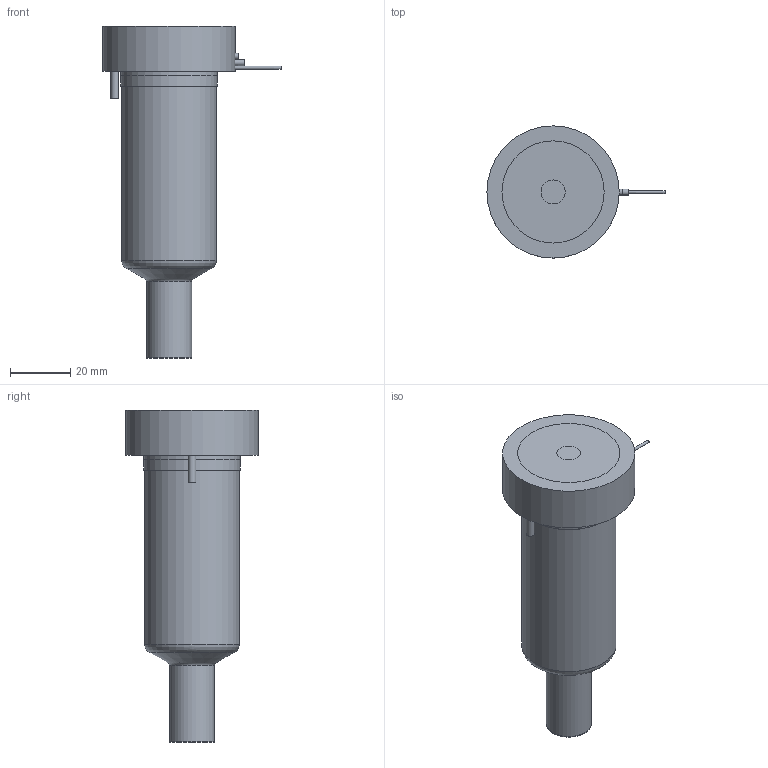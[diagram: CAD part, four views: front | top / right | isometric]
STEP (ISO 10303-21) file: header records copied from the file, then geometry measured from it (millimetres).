
FILE_DESCRIPTION(/* description */ (''),/* implementation_level */ '2;1');
FILE_NAME(/* name */ 'MXYCN19075P7U_200C_a',/* time_stamp */ '2016-02-29T16:08:37+13:00',/* author */ (''),/* organization */ (''),/* preprocessor_version */ 'ST-DEVELOPER v9',/* originating_system */ 'UGS - NX 4.0',/* authorisation */ '');
FILE_SCHEMA (('CONFIG_CONTROL_DESIGN'));
Length unit declared in the file: millimetre
Products named in the file (1): mattB1369ytw
Bounding box: 59.25 x 44 x 110.47 mm (x, y, z)
Volume: 133964.4 mm3; surface area: 24840.5 mm2
Topology: 2 solids, 2 shells, 68 faces, 144 edges, 94 vertices
Faces by surface type: plane 29, cylinder 25, torus 7, cone 5, bspline 1, sphere 1
Full cylindrical faces by diameter (mm): 1 x2, 1.8 x1, 2 x2, 2.5 x1, 7 x1, 8 x1, 14.61 x1, 14.995 x2, 18.3 x1, 25.4 x1, 31.5 x1, 32 x2, 44 x1
Entity records: 2005 total; most frequent: CARTESIAN_POINT 597, DIRECTION 290, ORIENTED_EDGE 212, AXIS2_PLACEMENT_3D 131, EDGE_LOOP 112, EDGE_CURVE 106, VERTEX_POINT 84, ADVANCED_FACE 68
